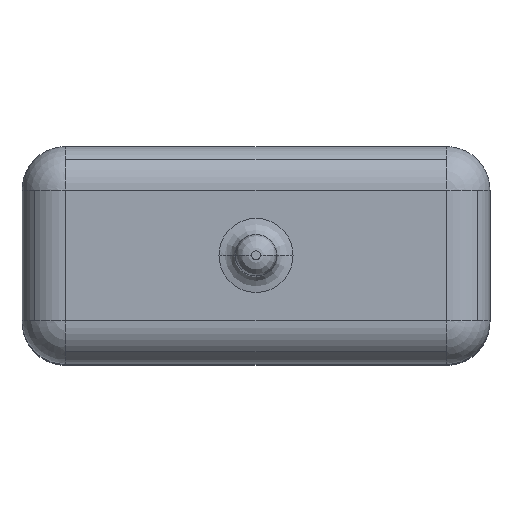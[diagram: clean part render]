
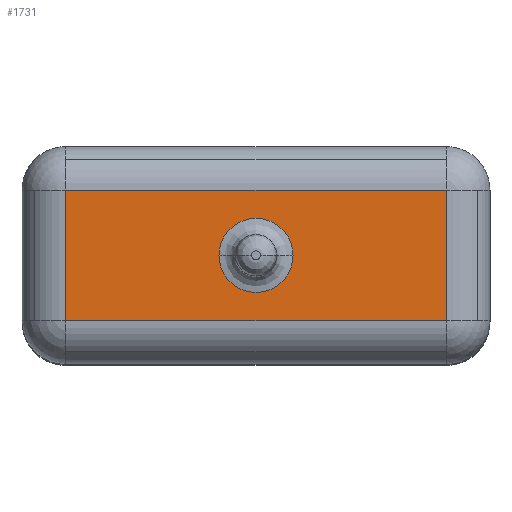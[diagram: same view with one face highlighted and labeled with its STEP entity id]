
A CAD part, top view. The second image highlights one B-rep face of the part: STEP entity #1731.
In plain terms, the highlighted planar face has unit normal (0, 0, 1).
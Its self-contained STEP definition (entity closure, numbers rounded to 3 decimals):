
#605=CARTESIAN_POINT('',(0.206,1.453,0.88));
#606=VERTEX_POINT('',#605);
#614=CARTESIAN_POINT('',(3.706,1.453,0.88));
#615=VERTEX_POINT('',#614);
#616=CARTESIAN_POINT('',(0.206,1.453,0.88));
#617=DIRECTION('',(1.0,0.0,0.0));
#618=VECTOR('',#617,3.5);
#619=LINE('',#616,#618);
#620=EDGE_CURVE('',#606,#615,#619,.T.);
#696=CARTESIAN_POINT('',(3.706,0.253,0.88));
#697=VERTEX_POINT('',#696);
#698=CARTESIAN_POINT('',(3.706,1.453,0.88));
#699=DIRECTION('',(0.0,-1.0,0.0));
#700=VECTOR('',#699,1.2);
#701=LINE('',#698,#700);
#702=EDGE_CURVE('',#615,#697,#701,.T.);
#729=CARTESIAN_POINT('',(0.206,0.253,0.88));
#730=VERTEX_POINT('',#729);
#738=CARTESIAN_POINT('',(0.206,0.253,0.88));
#739=DIRECTION('',(0.0,1.0,0.0));
#740=VECTOR('',#739,1.2);
#741=LINE('',#738,#740);
#742=EDGE_CURVE('',#730,#606,#741,.T.);
#776=CARTESIAN_POINT('',(3.706,0.253,0.88));
#777=DIRECTION('',(-1.0,0.0,0.0));
#778=VECTOR('',#777,3.5);
#779=LINE('',#776,#778);
#780=EDGE_CURVE('',#697,#730,#779,.T.);
#1399=CARTESIAN_POINT('',(2.297,0.853,0.88));
#1400=VERTEX_POINT('',#1399);
#1417=CARTESIAN_POINT('',(1.616,0.853,0.88));
#1418=VERTEX_POINT('',#1417);
#1426=CARTESIAN_POINT('',(1.956,0.853,0.88));
#1427=DIRECTION('',(0.0,0.0,1.0));
#1428=DIRECTION('',(-1.0,0.0,0.0));
#1429=AXIS2_PLACEMENT_3D('',#1426,#1427,#1428);
#1430=CIRCLE('',#1429,0.341);
#1431=EDGE_CURVE('',#1418,#1400,#1430,.T.);
#1704=CARTESIAN_POINT('',(1.956,0.853,0.88));
#1705=DIRECTION('',(0.0,0.0,1.0));
#1706=DIRECTION('',(-1.0,0.0,0.0));
#1707=AXIS2_PLACEMENT_3D('',#1704,#1705,#1706);
#1708=CIRCLE('',#1707,0.341);
#1709=EDGE_CURVE('',#1400,#1418,#1708,.T.);
#1716=CARTESIAN_POINT('',(2.003,0.857,0.88));
#1717=DIRECTION('',(0.0,0.0,1.0));
#1718=DIRECTION('',(1.0,0.0,0.0));
#1719=AXIS2_PLACEMENT_3D('',#1716,#1717,#1718);
#1720=PLANE('',#1719);
#1721=ORIENTED_EDGE('',*,*,#780,.F.);
#1722=ORIENTED_EDGE('',*,*,#702,.F.);
#1723=ORIENTED_EDGE('',*,*,#620,.F.);
#1724=ORIENTED_EDGE('',*,*,#742,.F.);
#1725=EDGE_LOOP('',(#1721,#1722,#1723,#1724));
#1726=FACE_OUTER_BOUND('',#1725,.T.);
#1727=ORIENTED_EDGE('',*,*,#1709,.F.);
#1728=ORIENTED_EDGE('',*,*,#1431,.F.);
#1729=EDGE_LOOP('',(#1727,#1728));
#1730=FACE_BOUND('',#1729,.T.);
#1731=ADVANCED_FACE('',(#1726,#1730),#1720,.T.);
